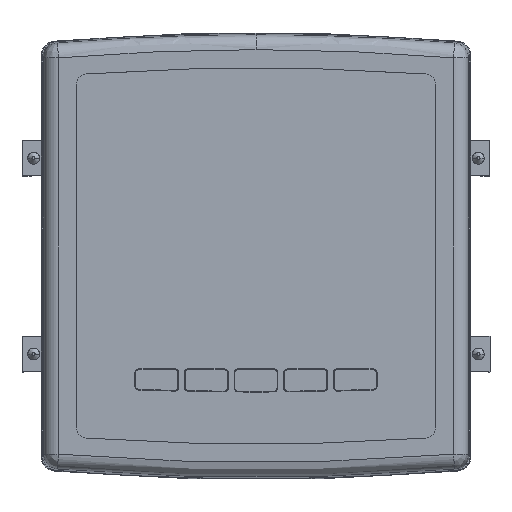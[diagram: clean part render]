
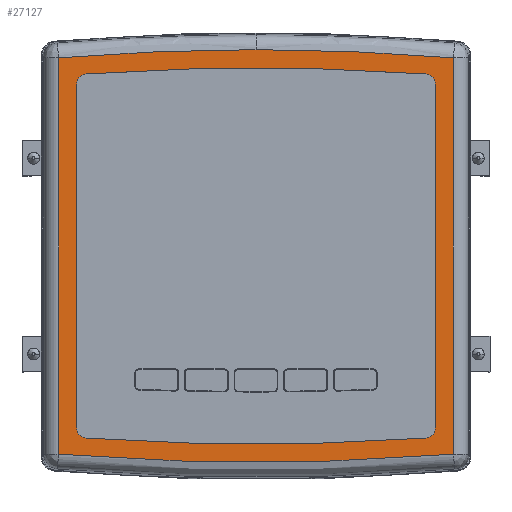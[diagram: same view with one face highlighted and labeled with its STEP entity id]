
A CAD part, top view. The second image highlights one B-rep face of the part: STEP entity #27127.
In plain terms, the highlighted planar face has unit normal (0, 0, 1).
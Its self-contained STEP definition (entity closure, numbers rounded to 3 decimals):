
#1092 = AXIS2_PLACEMENT_3D ( 'NONE', #31572, #54436, #75165 ) ;
#1463 = VERTEX_POINT ( 'NONE', #102035 ) ;
#4821 = EDGE_CURVE ( 'NONE', #62762, #58058, #128110, .T. ) ;
#4964 = CARTESIAN_POINT ( 'NONE',  ( -60.5, 735.132, 71.1 ) ) ;
#7240 = FACE_BOUND ( 'NONE', #51865, .T. ) ;
#9736 = ORIENTED_EDGE ( 'NONE', *, *, #4821, .T. ) ;
#11620 =( BOUNDED_CURVE ( )  B_SPLINE_CURVE ( 3, ( #47196, #134448, #124438, #132335 ),
 .UNSPECIFIED., .F., .F. ) 
 B_SPLINE_CURVE_WITH_KNOTS ( ( 4, 4 ),
 ( 0., 1. ),
 .UNSPECIFIED. ) 
 CURVE ( )  GEOMETRIC_REPRESENTATION_ITEM ( )  RATIONAL_B_SPLINE_CURVE ( ( 1., 0.999, 0.999, 1. ) ) 
 REPRESENTATION_ITEM ( '' )  );
#14289 = CARTESIAN_POINT ( 'NONE',  ( -57., -57.961, 71.1 ) ) ;
#16522 = VERTEX_POINT ( 'NONE', #82425 ) ;
#16942 = EDGE_CURVE ( 'NONE', #16522, #1463, #17189, .T. ) ;
#17189 = LINE ( 'NONE', #39314, #62334 ) ;
#17887 = DIRECTION ( 'NONE',  ( 0., 0., -1. ) ) ;
#18561 = VERTEX_POINT ( 'NONE', #108613 ) ;
#18585 = CIRCLE ( 'NONE', #132712, 798.649 ) ;
#20519 = EDGE_CURVE ( 'NONE', #54974, #62762, #18585, .T. ) ;
#21417 = AXIS2_PLACEMENT_3D ( 'NONE', #62908, #17887, #50748 ) ;
#26775 = VERTEX_POINT ( 'NONE', #54552 ) ;
#27127 = ADVANCED_FACE ( 'NONE', ( #7240, #138103 ), #30808, .F. ) ;
#28382 = EDGE_CURVE ( 'NONE', #78688, #18561, #73572, .T. ) ;
#30808 = PLANE ( 'NONE',  #119314 ) ;
#31572 = CARTESIAN_POINT ( 'NONE',  ( 0., 735.143, 71.1 ) ) ;
#35334 = CARTESIAN_POINT ( 'NONE',  ( 57., 57.961, 71.1 ) ) ;
#35366 = CARTESIAN_POINT ( 'NONE',  ( 60.5, 735.132, 71.1 ) ) ;
#38303 = ORIENTED_EDGE ( 'NONE', *, *, #96391, .T. ) ;
#39314 = CARTESIAN_POINT ( 'NONE',  ( -66.634, 735.132, 71.1 ) ) ;
#41803 = VECTOR ( 'NONE', #125802, 1000. ) ;
#41887 = DIRECTION ( 'NONE',  ( 0., 0., -1. ) ) ;
#43328 = CARTESIAN_POINT ( 'NONE',  ( -57.251, -61.452, 71.1 ) ) ;
#43507 = ORIENTED_EDGE ( 'NONE', *, *, #44739, .F. ) ;
#44739 = EDGE_CURVE ( 'NONE', #125434, #16522, #69250, .T. ) ;
#45066 = DIRECTION ( 'NONE',  ( -1., 0., 0. ) ) ;
#45662 = EDGE_CURVE ( 'NONE', #26775, #67791, #123291, .T. ) ;
#47196 = CARTESIAN_POINT ( 'NONE',  ( 0., 69.64, 71.1 ) ) ;
#48590 = CARTESIAN_POINT ( 'NONE',  ( 0., 69.64, 71.1 ) ) ;
#48876 = DIRECTION ( 'NONE',  ( 0., 0., -1. ) ) ;
#48905 = CIRCLE ( 'NONE', #21417, 3.5 ) ;
#49545 = ORIENTED_EDGE ( 'NONE', *, *, #73967, .F. ) ;
#49648 = ORIENTED_EDGE ( 'NONE', *, *, #20519, .T. ) ;
#50311 = DIRECTION ( 'NONE',  ( 0., -1., 0. ) ) ;
#50424 = AXIS2_PLACEMENT_3D ( 'NONE', #35334, #48876, #123968 ) ;
#50748 = DIRECTION ( 'NONE',  ( -1., 0., 0. ) ) ;
#51865 = EDGE_LOOP ( 'NONE', ( #91213, #49648, #9736, #132732, #135886, #83881, #38303, #121144 ) ) ;
#53769 = EDGE_CURVE ( 'NONE', #1463, #64265, #134005, .T. ) ;
#54242 = EDGE_CURVE ( 'NONE', #89855, #125434, #118385, .T. ) ;
#54436 = DIRECTION ( 'NONE',  ( 0., 0., -1. ) ) ;
#54451 = CARTESIAN_POINT ( 'NONE',  ( 57.251, 61.452, 71.1 ) ) ;
#54552 = CARTESIAN_POINT ( 'NONE',  ( 60.5, -57.961, 71.1 ) ) ;
#54974 = VERTEX_POINT ( 'NONE', #124103 ) ;
#55915 = CIRCLE ( 'NONE', #1092, 798.649 ) ;
#58058 = VERTEX_POINT ( 'NONE', #75759 ) ;
#60677 = CARTESIAN_POINT ( 'NONE',  ( -22.243, 69.64, 71.1 ) ) ;
#61399 = CARTESIAN_POINT ( 'NONE',  ( 0., 69.64, 71.1 ) ) ;
#62334 = VECTOR ( 'NONE', #93002, 1000. ) ;
#62762 = VERTEX_POINT ( 'NONE', #54451 ) ;
#62908 = CARTESIAN_POINT ( 'NONE',  ( -57., 57.961, 71.1 ) ) ;
#64265 = VERTEX_POINT ( 'NONE', #48590 ) ;
#65586 = CIRCLE ( 'NONE', #136432, 3.5 ) ;
#67791 = VERTEX_POINT ( 'NONE', #69548 ) ;
#68804 = CARTESIAN_POINT ( 'NONE',  ( 22.262, -70.563, 71.1 ) ) ;
#69250 =( BOUNDED_CURVE ( )  B_SPLINE_CURVE ( 3, ( #135273, #68804, #113862, #121756 ),
 .UNSPECIFIED., .F., .F. ) 
 B_SPLINE_CURVE_WITH_KNOTS ( ( 4, 4 ),
 ( 0., 1. ),
 .UNSPECIFIED. ) 
 CURVE ( )  GEOMETRIC_REPRESENTATION_ITEM ( )  RATIONAL_B_SPLINE_CURVE ( ( 1., 0.998, 0.998, 1. ) ) 
 REPRESENTATION_ITEM ( '' )  );
#69548 = CARTESIAN_POINT ( 'NONE',  ( 57.251, -61.452, 71.1 ) ) ;
#71592 = EDGE_CURVE ( 'NONE', #18561, #54974, #48905, .T. ) ;
#73572 = LINE ( 'NONE', #4964, #41803 ) ;
#73967 = EDGE_CURVE ( 'NONE', #64265, #89855, #11620, .T. ) ;
#75052 = ORIENTED_EDGE ( 'NONE', *, *, #16942, .F. ) ;
#75165 = DIRECTION ( 'NONE',  ( -1., 0., 0. ) ) ;
#75759 = CARTESIAN_POINT ( 'NONE',  ( 60.5, 57.961, 71.1 ) ) ;
#78688 = VERTEX_POINT ( 'NONE', #140769 ) ;
#80352 = VECTOR ( 'NONE', #50311, 1000. ) ;
#82425 = CARTESIAN_POINT ( 'NONE',  ( -66.634, -66.877, 71.1 ) ) ;
#83367 = DIRECTION ( 'NONE',  ( 0., -1., 0. ) ) ;
#83881 = ORIENTED_EDGE ( 'NONE', *, *, #105170, .T. ) ;
#86568 = CARTESIAN_POINT ( 'NONE',  ( 0., 735.132, 71.1 ) ) ;
#87055 = ORIENTED_EDGE ( 'NONE', *, *, #53769, .F. ) ;
#88727 = DIRECTION ( 'NONE',  ( 0., 0., -1. ) ) ;
#89855 = VERTEX_POINT ( 'NONE', #125696 ) ;
#90303 = DIRECTION ( 'NONE',  ( 0., 0., -1. ) ) ;
#90572 = VECTOR ( 'NONE', #83367, 1000. ) ;
#91002 = CARTESIAN_POINT ( 'NONE',  ( 0., -735.143, 71.1 ) ) ;
#91213 = ORIENTED_EDGE ( 'NONE', *, *, #71592, .T. ) ;
#92596 = CARTESIAN_POINT ( 'NONE',  ( 66.634, -66.877, 71.1 ) ) ;
#92855 = CARTESIAN_POINT ( 'NONE',  ( -66.634, 66.877, 71.1 ) ) ;
#93002 = DIRECTION ( 'NONE',  ( 0., 1., 0. ) ) ;
#96391 = EDGE_CURVE ( 'NONE', #119166, #78688, #65586, .T. ) ;
#102035 = CARTESIAN_POINT ( 'NONE',  ( -66.634, 66.877, 71.1 ) ) ;
#102827 = ORIENTED_EDGE ( 'NONE', *, *, #54242, .F. ) ;
#105170 = EDGE_CURVE ( 'NONE', #67791, #119166, #55915, .T. ) ;
#107316 = DIRECTION ( 'NONE',  ( -1., 0., 0. ) ) ;
#107628 = CARTESIAN_POINT ( 'NONE',  ( 66.634, 735.132, 71.1 ) ) ;
#108613 = CARTESIAN_POINT ( 'NONE',  ( -60.5, 57.961, 71.1 ) ) ;
#113862 = CARTESIAN_POINT ( 'NONE',  ( -22.262, -70.563, 71.1 ) ) ;
#114206 = AXIS2_PLACEMENT_3D ( 'NONE', #139848, #41887, #141268 ) ;
#118057 = DIRECTION ( 'NONE',  ( 0., 0., -1. ) ) ;
#118385 = LINE ( 'NONE', #107628, #90572 ) ;
#119166 = VERTEX_POINT ( 'NONE', #43328 ) ;
#119314 = AXIS2_PLACEMENT_3D ( 'NONE', #86568, #118057, #107316 ) ;
#119786 = EDGE_CURVE ( 'NONE', #58058, #26775, #133330, .T. ) ;
#121144 = ORIENTED_EDGE ( 'NONE', *, *, #28382, .T. ) ;
#121756 = CARTESIAN_POINT ( 'NONE',  ( -66.634, -66.877, 71.1 ) ) ;
#123291 = CIRCLE ( 'NONE', #114206, 3.5 ) ;
#123968 = DIRECTION ( 'NONE',  ( -1., 0., 0. ) ) ;
#124103 = CARTESIAN_POINT ( 'NONE',  ( -57.251, 61.452, 71.1 ) ) ;
#124438 = CARTESIAN_POINT ( 'NONE',  ( 44.467, 68.718, 71.1 ) ) ;
#125434 = VERTEX_POINT ( 'NONE', #92596 ) ;
#125696 = CARTESIAN_POINT ( 'NONE',  ( 66.634, 66.877, 71.1 ) ) ;
#125802 = DIRECTION ( 'NONE',  ( 0., 1., 0. ) ) ;
#128110 = CIRCLE ( 'NONE', #50424, 3.5 ) ;
#132335 = CARTESIAN_POINT ( 'NONE',  ( 66.634, 66.877, 71.1 ) ) ;
#132712 = AXIS2_PLACEMENT_3D ( 'NONE', #91002, #90303, #134589 ) ;
#132732 = ORIENTED_EDGE ( 'NONE', *, *, #119786, .T. ) ;
#133330 = LINE ( 'NONE', #35366, #80352 ) ;
#134005 =( BOUNDED_CURVE ( )  B_SPLINE_CURVE ( 3, ( #92855, #136456, #60677, #61399 ),
 .UNSPECIFIED., .F., .F. ) 
 B_SPLINE_CURVE_WITH_KNOTS ( ( 4, 4 ),
 ( 0., 1. ),
 .UNSPECIFIED. ) 
 CURVE ( )  GEOMETRIC_REPRESENTATION_ITEM ( )  RATIONAL_B_SPLINE_CURVE ( ( 1., 0.999, 0.999, 1. ) ) 
 REPRESENTATION_ITEM ( '' )  );
#134448 = CARTESIAN_POINT ( 'NONE',  ( 22.243, 69.64, 71.1 ) ) ;
#134589 = DIRECTION ( 'NONE',  ( -1., 0., 0. ) ) ;
#135273 = CARTESIAN_POINT ( 'NONE',  ( 66.634, -66.877, 71.1 ) ) ;
#135886 = ORIENTED_EDGE ( 'NONE', *, *, #45662, .T. ) ;
#136432 = AXIS2_PLACEMENT_3D ( 'NONE', #14289, #88727, #45066 ) ;
#136456 = CARTESIAN_POINT ( 'NONE',  ( -44.467, 68.718, 71.1 ) ) ;
#137154 = EDGE_LOOP ( 'NONE', ( #102827, #49545, #87055, #75052, #43507 ) ) ;
#138103 = FACE_OUTER_BOUND ( 'NONE', #137154, .T. ) ;
#139848 = CARTESIAN_POINT ( 'NONE',  ( 57., -57.961, 71.1 ) ) ;
#140769 = CARTESIAN_POINT ( 'NONE',  ( -60.5, -57.961, 71.1 ) ) ;
#141268 = DIRECTION ( 'NONE',  ( -1., 0., 0. ) ) ;
